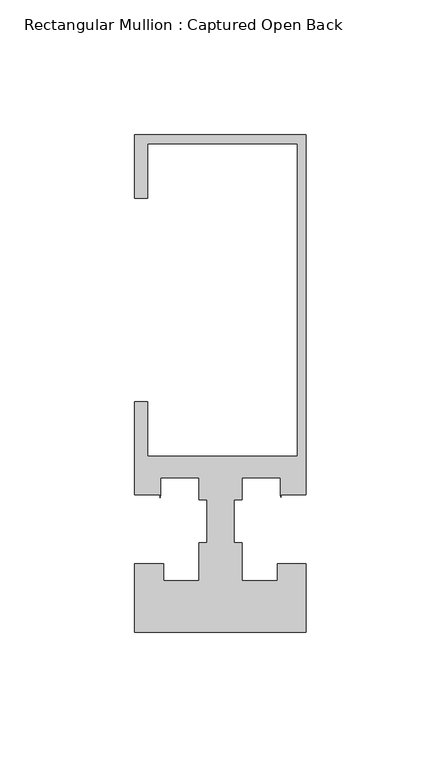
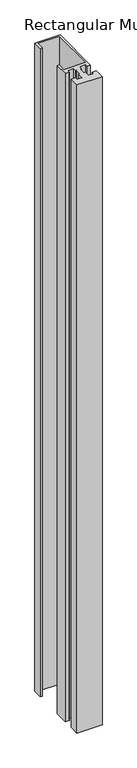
"""IFC4 building model written with IfcOpenShell, lengths in millimetres: member geometry, Rectangular Mullion : Captured Open Back."""

from ifc_helpers import new_model, si_unit, frame, origin, place, context, project, spatial, polyline, outline, extrude, source, transform, mapped, element, save


def rectangular_mullion_captured_open_back_a8ff4117(model_context):
    return source(origin(), model_context, "Body", "SweptSolid", [
        extrude(outline(polyline([(-63.5205663, 114.3), (0.0, 114.3), (0.0, -18.9488461), (-9.3386849, -18.9488461), (-9.3386849, -19.8905485), (-9.5249909, -18.948961), (-9.5249909, -12.7), (-23.8124458, -12.7), (-23.8124458, -20.8793999), (-26.7860526, -20.8793999), (-26.7860526, -36.6491027), (-23.8124461, -36.6491027), (-23.8124461, -50.8001709), (-10.7229117, -50.8001709), (-10.7229117, -44.4247364), (-0.0205663, -44.4247364), (-0.0205663, -69.8502416), (-63.5205663, -69.8502416), (-63.5205663, -44.4245655), (-52.8345479, -44.4245655), (-52.8345479, -50.8001709), (-39.6874472, -50.8001709), (-39.6874472, -36.6491027), (-36.738785, -36.6491027), (-36.738785, -20.8793999), (-39.7916658, -20.8793999), (-39.7916658, -12.7), (-53.9751125, -12.7), (-53.9751125, -18.933673), (-54.1413824, -20.0839351), (-54.1413824, -18.933673), (-63.5205663, -18.933673), (-63.5205663, 15.5833982), (-58.7374998, 15.5833982), (-58.7374998, -4.7625735), (-3.175617, -4.7625735), (-3.175617, 111.1250145), (-58.7374998, 111.1250145), (-58.7374998, 90.8721193), (-63.5205663, 90.8721193), (-63.5205663, 114.3)])), frame((0.0, 0.0, -1733.5294337), z_axis=(0.0, 0.0, 1.0), x_axis=(1.0, 0.0, 0.0)), (0.0, 0.0, 1.0), 1733.5294337),
    ])


if __name__ == "__main__":
    model = new_model("IFC4")
    model_context = context("Model", 3, world=origin())
    ifc_project = project(units=[si_unit("LENGTHUNIT", "METRE", prefix="MILLI")], contexts=[model_context])
    site = spatial("IfcSite", under=ifc_project)
    building = spatial("IfcBuilding", under=site)
    placement = place(None, origin())
    rectangular_mullion_captured_open_back_shape = rectangular_mullion_captured_open_back_a8ff4117(model_context)
    element("IfcMember", 1, ObjectType="Rectangular Mullion : Captured Open Back", at=placement, inside=building, context=model_context, shape_type="MappedRepresentation", body=[
        mapped(rectangular_mullion_captured_open_back_shape, transform((0.0, 0.0, 0.0), x_axis=(1.0, 0.0, 0.0), y_axis=(0.0, 1.0, 0.0), z_axis=(0.0, 0.0, 1.0))),
    ])
    save(model, "model.ifc")
